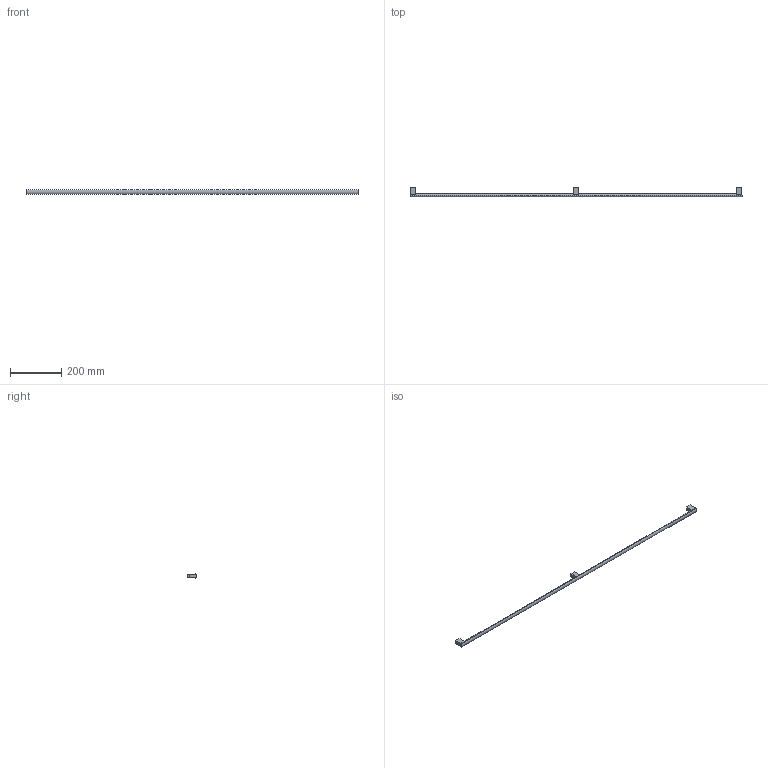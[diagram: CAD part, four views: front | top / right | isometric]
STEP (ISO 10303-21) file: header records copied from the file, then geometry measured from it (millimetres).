
FILE_DESCRIPTION( ( 'STEP AP214' ), '1' );
FILE_NAME( 'D:/Shahbaz D&D/Task/Check and correct handles with 3 drill sockets/Clivia/115218.stp', '2023-02-20T11:18:18', ( '' ), ( '' ), ' ', 'PARTsolutions', ' ' );
FILE_SCHEMA( ( 'AUTOMOTIVE_DESIGN { 1 0 10303 214 1 1 1 1 }' ) );
Length unit declared in the file: millimetre
Products named in the file (1): _115218
Bounding box: 1300 x 35.96 x 16 mm (x, y, z)
Volume: 196878.4 mm3; surface area: 61756.8 mm2
Topology: 1 solids, 1 shells, 30 faces, 69 edges, 46 vertices
Faces by surface type: plane 25, cylinder 5
Full cylindrical faces by diameter (mm): 4 x3
Entity records: 1090 total; most frequent: DIRECTION 144, CARTESIAN_POINT 143, ORIENTED_EDGE 132, EDGE_CURVE 66, LINE 50, VECTOR 50, AXIS2_PLACEMENT_3D 47, VERTEX_POINT 46
